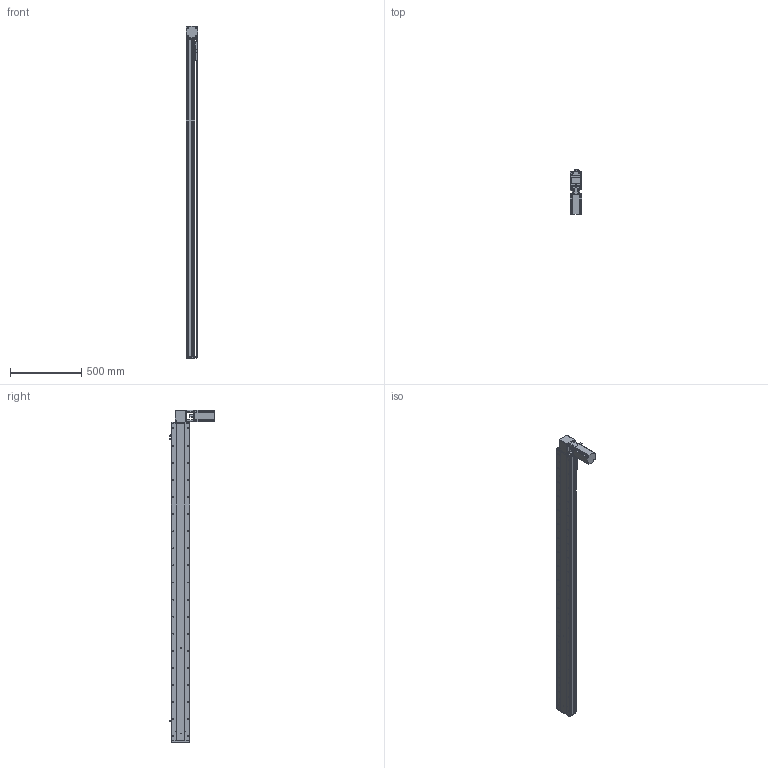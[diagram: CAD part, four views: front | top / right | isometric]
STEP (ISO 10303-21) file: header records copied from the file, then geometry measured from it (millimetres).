
FILE_DESCRIPTION (( 'STEP AP214' ), '1' );
FILE_NAME ('KSD130B-S2000-MLT-CM.STEP', '2019-09-23T07:47:50', ( '微软用户' ), ( '微软中国' ), 'SwSTEP 2.0', 'SolidWorks 2014', '' );
FILE_SCHEMA (( 'AUTOMOTIVE_DESIGN' ));
Length unit declared in the file: millimetre
Products named in the file (12): 台达ECMA－C20807AS伺服电机; 130宽马达安装板1-带电机座750W（1）; 覜茼え100遵圉猾敕; U倰嫖萇EEㄜSX672; 130宽安装板同步带带电机座750W; 130宽盖板半封闭同步带-2000行程; 130宽马达安装板同步带左-改; 130宽马达安装板同步带半封闭; 130宽同步带安装座半封闭; 130宽端盖同步带半封闭; 130宽底板半封闭同步带-2000行程; KSD130B-S2000-MLT-CM
Assembly tree (13 placements, depth 2):
  KSD130B-S2000-MLT-CM
    130宽底板半封闭同步带-2000行程
    130宽端盖同步带半封闭
    130宽同步带安装座半封闭
    130宽马达安装板同步带半封闭
    130宽马达安装板同步带左-改
    130宽盖板半封闭同步带-2000行程
    130宽安装板同步带带电机座750W
    U倰嫖萇EEㄜSX672  x3
    覜茼え100遵圉猾敕
    130宽马达安装板1-带电机座750W（1）
    台达ECMA－C20807AS伺服电机
Bounding box: 81 x 316 x 2333 mm (x, y, z)
Volume: 7660983.2 mm3; surface area: 2140768.9 mm2
Topology: 14 solids, 14 shells, 1777 faces, 5192 edges, 3281 vertices
Faces by surface type: cylinder 887, plane 641, cone 249
Entity records: 61107 total; most frequent: CARTESIAN_POINT 11947, DIRECTION 9182, ORIENTED_EDGE 8884, EDGE_CURVE 4442, AXIS2_PLACEMENT_3D 3408, VERTEX_POINT 2905, VECTOR 2366, LINE 2366
